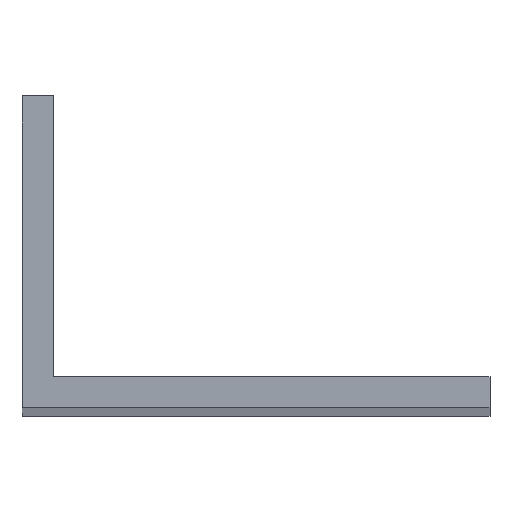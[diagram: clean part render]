
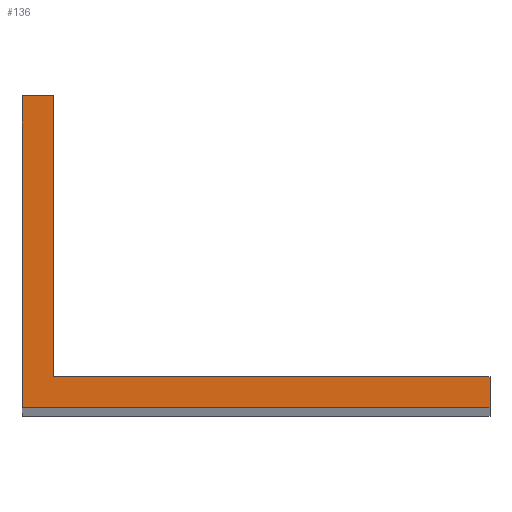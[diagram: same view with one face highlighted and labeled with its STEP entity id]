
A CAD part, top view. The second image highlights one B-rep face of the part: STEP entity #136.
In plain terms, the highlighted planar face has unit normal (0, 0, 1).
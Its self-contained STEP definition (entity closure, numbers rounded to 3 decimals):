
#1 = VERTEX_POINT ( 'NONE', #167 ) ;
#4 = EDGE_LOOP ( 'NONE', ( #118, #23, #193, #38, #237, #292 ) ) ;
#10 = LINE ( 'NONE', #21, #270 ) ;
#12 = VECTOR ( 'NONE', #218, 1000. ) ;
#21 = CARTESIAN_POINT ( 'NONE',  ( -2., -2., 150. ) ) ;
#23 = ORIENTED_EDGE ( 'NONE', *, *, #57, .T. ) ;
#29 = VERTEX_POINT ( 'NONE', #174 ) ;
#30 = VECTOR ( 'NONE', #217, 1000. ) ;
#33 = CARTESIAN_POINT ( 'NONE',  ( -2., 18., 150. ) ) ;
#38 = ORIENTED_EDGE ( 'NONE', *, *, #283, .T. ) ;
#40 = VERTEX_POINT ( 'NONE', #122 ) ;
#47 = CARTESIAN_POINT ( 'NONE',  ( 0., 0., 150. ) ) ;
#55 = EDGE_CURVE ( 'NONE', #40, #185, #130, .T. ) ;
#57 = EDGE_CURVE ( 'NONE', #179, #29, #231, .T. ) ;
#70 = DIRECTION ( 'NONE',  ( -1., 0., 0. ) ) ;
#75 = LINE ( 'NONE', #277, #114 ) ;
#77 = DIRECTION ( 'NONE',  ( -1., 0., 0. ) ) ;
#79 = PLANE ( 'NONE',  #110 ) ;
#89 = EDGE_CURVE ( 'NONE', #244, #40, #10, .T. ) ;
#91 = VECTOR ( 'NONE', #258, 1000. ) ;
#97 = CARTESIAN_POINT ( 'NONE',  ( 28., 0., 150. ) ) ;
#102 = EDGE_CURVE ( 'NONE', #29, #1, #75, .T. ) ;
#110 = AXIS2_PLACEMENT_3D ( 'NONE', #272, #134, #70 ) ;
#114 = VECTOR ( 'NONE', #77, 1000. ) ;
#118 = ORIENTED_EDGE ( 'NONE', *, *, #192, .T. ) ;
#122 = CARTESIAN_POINT ( 'NONE',  ( 28., -2., 150. ) ) ;
#125 = FACE_OUTER_BOUND ( 'NONE', #4, .T. ) ;
#130 = LINE ( 'NONE', #147, #138 ) ;
#134 = DIRECTION ( 'NONE',  ( 0., 0., -1. ) ) ;
#136 = ADVANCED_FACE ( 'NONE', ( #125 ), #79, .F. ) ;
#137 = DIRECTION ( 'NONE',  ( 1., 0., 0. ) ) ;
#138 = VECTOR ( 'NONE', #260, 1000. ) ;
#145 = CARTESIAN_POINT ( 'NONE',  ( -2., -2., 150. ) ) ;
#147 = CARTESIAN_POINT ( 'NONE',  ( 28., -2., 150. ) ) ;
#167 = CARTESIAN_POINT ( 'NONE',  ( -2., 18., 150. ) ) ;
#174 = CARTESIAN_POINT ( 'NONE',  ( 0., 18., 150. ) ) ;
#179 = VERTEX_POINT ( 'NONE', #47 ) ;
#184 = LINE ( 'NONE', #97, #30 ) ;
#185 = VERTEX_POINT ( 'NONE', #186 ) ;
#186 = CARTESIAN_POINT ( 'NONE',  ( 28., 0., 150. ) ) ;
#192 = EDGE_CURVE ( 'NONE', #185, #179, #184, .T. ) ;
#193 = ORIENTED_EDGE ( 'NONE', *, *, #102, .T. ) ;
#196 = LINE ( 'NONE', #33, #91 ) ;
#199 = CARTESIAN_POINT ( 'NONE',  ( 0., 0., 150. ) ) ;
#217 = DIRECTION ( 'NONE',  ( -1., 0., 0. ) ) ;
#218 = DIRECTION ( 'NONE',  ( 0., 1., 0. ) ) ;
#231 = LINE ( 'NONE', #199, #12 ) ;
#237 = ORIENTED_EDGE ( 'NONE', *, *, #89, .T. ) ;
#244 = VERTEX_POINT ( 'NONE', #145 ) ;
#258 = DIRECTION ( 'NONE',  ( 0., -1., 0. ) ) ;
#260 = DIRECTION ( 'NONE',  ( 0., 1., 0. ) ) ;
#270 = VECTOR ( 'NONE', #137, 1000. ) ;
#272 = CARTESIAN_POINT ( 'NONE',  ( 0., 0., 150. ) ) ;
#277 = CARTESIAN_POINT ( 'NONE',  ( 0., 18., 150. ) ) ;
#283 = EDGE_CURVE ( 'NONE', #1, #244, #196, .T. ) ;
#292 = ORIENTED_EDGE ( 'NONE', *, *, #55, .T. ) ;
